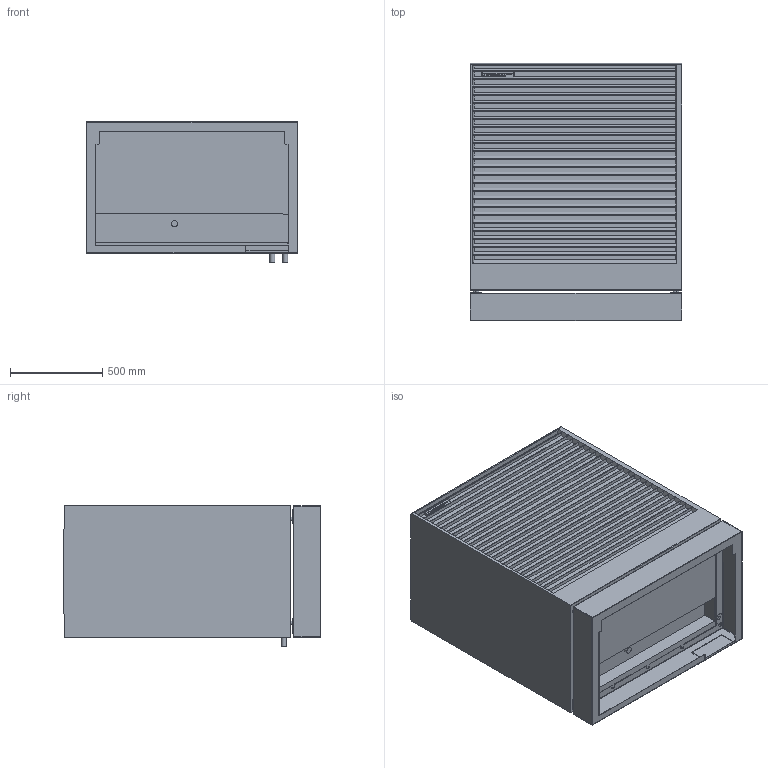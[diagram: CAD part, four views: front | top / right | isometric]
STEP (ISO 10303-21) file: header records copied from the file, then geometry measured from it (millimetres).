
FILE_DESCRIPTION (( 'STEP AP214' ), '1' );
FILE_NAME ('ADAPT 2 M,L_zadnji priklop (zgoraj)) + kovinski temelj.STEP', '2026-03-13T08:45:16', ( '' ), ( '' ), 'SwSTEP 2.0', 'SolidWorks 2024', '' );
FILE_SCHEMA (( 'AUTOMOTIVE_DESIGN' ));
Length unit declared in the file: millimetre
Products named in the file (3): ADAPT 2 M,L_zadnji priklop (zgoraj)) + kovinski temelj; ADAPT 2 M,L_Zadnji priklop; TKT_ADAPT 2
Assembly tree (2 placements, depth 2):
  ADAPT 2 M,L_zadnji priklop (zgoraj)) + kovinski temelj
    TKT_ADAPT 2
    ADAPT 2 M,L_Zadnji priklop
Bounding box: 1150 x 1399.29 x 765 mm (x, y, z)
Volume: 946691338.8 mm3; surface area: 10729499.2 mm2
Topology: 4 solids, 4 shells, 795 faces, 2196 edges, 1439 vertices
Faces by surface type: plane 636, bspline 76, cylinder 70, sphere 9, cone 4
Full cylindrical faces by diameter (mm): 8.376 x2, 12.67 x2, 13 x8, 19 x4, 28 x2, 34.029 x1
Entity records: 34605 total; most frequent: CARTESIAN_POINT 8870, ORIENTED_EDGE 4296, DIRECTION 3528, EDGE_CURVE 2148, VECTOR 1858, LINE 1858, VERTEX_POINT 1427, EDGE_LOOP 913
